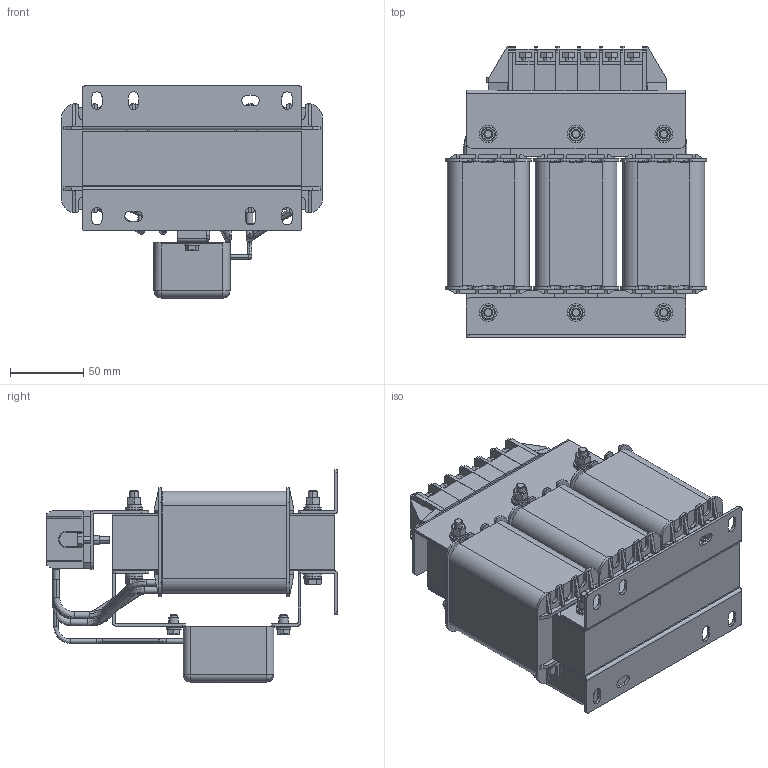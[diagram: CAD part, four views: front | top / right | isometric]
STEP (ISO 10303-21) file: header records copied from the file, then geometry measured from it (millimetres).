
FILE_DESCRIPTION (( 'STEP AP203' ), '1' );
FILE_NAME ('婰錪襝 dU_dT _ IDUDT-15_19-6.STEP', '2026-05-05T12:08:36', ( '' ), ( '' ), 'SwSTEP 2.0', 'SolidWorks 2021', '' );
FILE_SCHEMA (( 'CONFIG_CONTROL_DESIGN' ));
Length unit declared in the file: millimetre
Products named in the file (116): 端子PW8-06-02+线耳）_6; 端子PW8-06-02+线耳）_7; 端子PW8-06-02+线耳）_18; 端子PW8-06-02+线耳）; 端子PW8-06-02+线耳）_48; 端子PW8-06-02+线耳）_60; 端子PW8-06-02+线耳）_33; 端子PW8-06-02+线耳）_36; 端子PW8-06-02+线耳）_45; 奻標璃-150℅30-; 端子PW8-06-02+线耳）_27; 电容引线-18.5KW; 端子PW8-06-02+线耳）_32; 端子PW8-06-02+线耳）_38; 端子PW8-06-02+线耳）_50; 端子PW8-06-02+线耳）_35; 萇蕨ん竘盄_3; 端子PW8-06-02+线耳）_5; M6｡ﾁ60+2ﾆｽ_2; plain washers--product grade c gb_GB_FASTENER_WASHER_SMWC 5; 端子PW8-06-02+线耳）_10; 萇蕨ん竘盄_2; 嶺啣沭30-152; 端子PW8-06-02+线耳）_52; M6螺母+双平垫+弹垫_1; 端子PW8-06-02+线耳）_40; G30｡ﾁ40｡ﾁ90_3; G30｡ﾁ40｡ﾁ90_10; 奻標璃+傷赽PW8-06-02; 三相铁芯150-30-37-H152; 端子PW8-06-02+线耳）_54; 端子PW8-06-02+线耳）_46; G30｡ﾁ40｡ﾁ90_5; M6｡ﾁ60+2ﾆｽ_5; 端子PW8-06-02+线耳）_34; 端子PW8-06-02+线耳）_23; G30｡ﾁ40｡ﾁ90_15; 端子PW8-06-02+线耳）_31; 端子PW8-06-02+线耳）_2; G30｡ﾁ40｡ﾁ90_4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
Assembly tree (145 placements, depth 3):
  婰錪襝 dU_dT _ IDUDT-15_19-6
    三相铁芯150-30-37-H152
    嶺啣沭30-152  x6
    奻標璃-150℅30--
    SKS-1484.405-LJ-A0下夹件-150×27×30通
    奻標璃+傷赽PW8-06-02
    M6螺母+双平垫+弹垫  x6
      M6螺母+双平垫+弹垫
      M6螺母+双平垫+弹垫_3
      M6螺母+双平垫+弹垫_1
      M6螺母+双平垫+弹垫_2
    M6｡ﾁ60+2ﾆｽ
      plain washers--product grade c gb_GB_FASTENER_WASHER_SMWC 6  x2
      M6℅60蹟裝
    M6｡ﾁ60+2ﾆｽ_1
      plain washers--product grade c gb_GB_FASTENER_WASHER_SMWC 6  x2
      M6℅60蹟裝
    M6｡ﾁ60+2ﾆｽ_2
      plain washers--product grade c gb_GB_FASTENER_WASHER_SMWC 6  x2
      M6℅60蹟裝
    M6｡ﾁ60+2ﾆｽ_3
      plain washers--product grade c gb_GB_FASTENER_WASHER_SMWC 6  x2
      M6℅60蹟裝
    M6｡ﾁ60+2ﾆｽ_4
      plain washers--product grade c gb_GB_FASTENER_WASHER_SMWC 6  x2
      M6℅60蹟裝
    M6｡ﾁ60+2ﾆｽ_5
      plain washers--product grade c gb_GB_FASTENER_WASHER_SMWC 6  x2
      M6℅60蹟裝
    端子PW8-06-02+线耳）
      端子PW8-06-02+线耳）_26
      端子PW8-06-02+线耳）_52
      端子PW8-06-02+线耳）_59
      端子PW8-06-02+线耳）_48
      端子PW8-06-02+线耳）_35
      端子PW8-06-02+线耳）_19
      端子PW8-06-02+线耳）_10
      端子PW8-06-02+线耳）_18
      端子PW8-06-02+线耳）_23
      端子PW8-06-02+线耳）_4
      端子PW8-06-02+线耳）_51
      端子PW8-06-02+线耳）_40
      端子PW8-06-02+线耳）_1
      端子PW8-06-02+线耳）_34
      端子PW8-06-02+线耳）_13
      端子PW8-06-02+线耳）_30
      端子PW8-06-02+线耳）_56
      端子PW8-06-02+线耳）_6
      端子PW8-06-02+线耳）_55
      端子PW8-06-02+线耳）_11
      端子PW8-06-02+线耳）_5
      端子PW8-06-02+线耳）_3
      端子PW8-06-02+线耳）_29
      端子PW8-06-02+线耳）_43
      端子PW8-06-02+线耳）_15
      端子PW8-06-02+线耳）_39
      端子PW8-06-02+线耳）_44
      端子PW8-06-02+线耳）_49
      端子PW8-06-02+线耳）_22
      端子PW8-06-02+线耳）_28
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Bounding box: 178.6 x 199 x 145 mm (x, y, z)
Volume: 1676536.7 mm3; surface area: 448407.2 mm2
Topology: 179 solids, 179 shells, 2704 faces, 6839 edges, 4539 vertices
Faces by surface type: plane 1748, cylinder 737, cone 160, bspline 54, sphere 5
Entity records: 65042 total; most frequent: CARTESIAN_POINT 11577, ORIENTED_EDGE 8356, DIRECTION 8240, EDGE_CURVE 4178, LINE 2872, VECTOR 2872, VERTEX_POINT 2785, AXIS2_PLACEMENT_3D 2684
